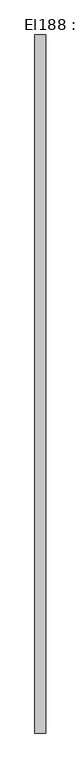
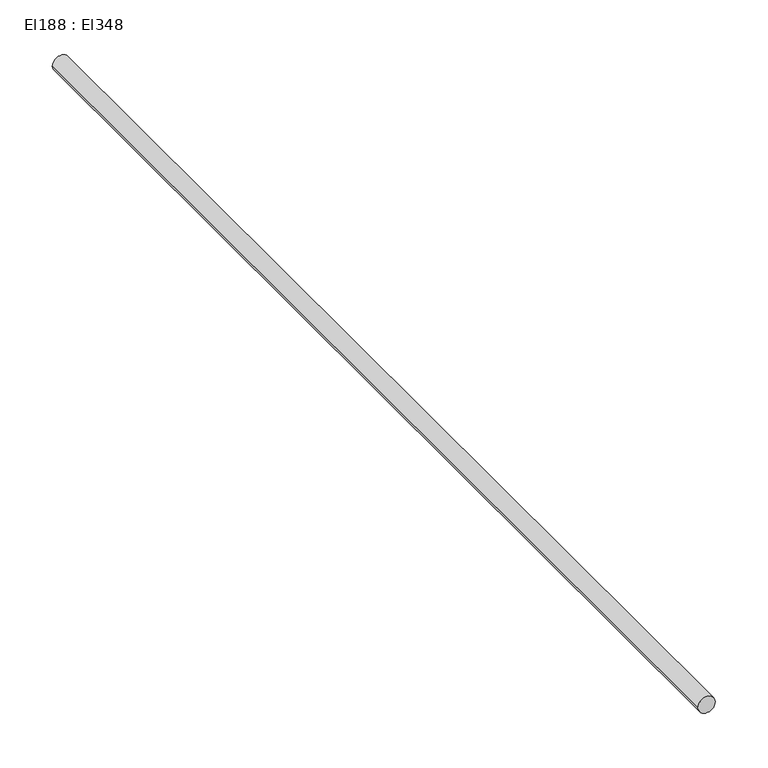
"""IFC4 building model written with IfcOpenShell, lengths in millimetres: cable carrier segment geometry, El188 : El348."""

from ifc_helpers import new_model, si_unit, point, frame, frame_2d, origin, place, context, project, spatial, circle_curve, trimmed, segment, composite_curve, outline, extrude, source, transform, mapped, element, save


def el188_el348_5437adee(model_context):
    return source(origin(), model_context, "Body", "SweptSolid", [
        extrude(outline(composite_curve([segment(trimmed(circle_curve(frame_2d((1800.0, 11714.4746511)), 9.5), [point((1800.0, 11704.9746511))], [point((1800.0, 11723.9746511))], False, "CARTESIAN"), True, "CONTINUOUS"), segment(trimmed(circle_curve(frame_2d((1800.0, 11714.4746511)), 9.5), [point((1800.0, 11723.9746511))], [point((1800.0, 11704.9746511))], False, "CARTESIAN"), True, "CONTINUOUS")], self_intersect=False)), frame((0.0, 2257.4801745, 0.0), z_axis=(0.0, 1.0, 0.0), x_axis=(0.0, 0.0, 1.0)), (0.0, 0.0, 1.0), 1233.06),
    ])


if __name__ == "__main__":
    model = new_model("IFC4")
    model_context = context("Model", 3, world=origin())
    ifc_project = project(units=[si_unit("LENGTHUNIT", "METRE", prefix="MILLI")], contexts=[model_context])
    site = spatial("IfcSite", under=ifc_project)
    building = spatial("IfcBuilding", under=site)
    placement = place(None, origin())
    el188_el348_shape = el188_el348_5437adee(model_context)
    element("IfcCableCarrierSegment", 1, ObjectType="El188 : El348", at=placement, inside=building, context=model_context, shape_type="MappedRepresentation", body=[
        mapped(el188_el348_shape, transform((0.0, 0.0, 0.0), x_axis=(1.0, 0.0, 0.0), y_axis=(0.0, 1.0, 0.0), z_axis=(0.0, 0.0, 1.0))),
    ])
    save(model, "model.ifc")
